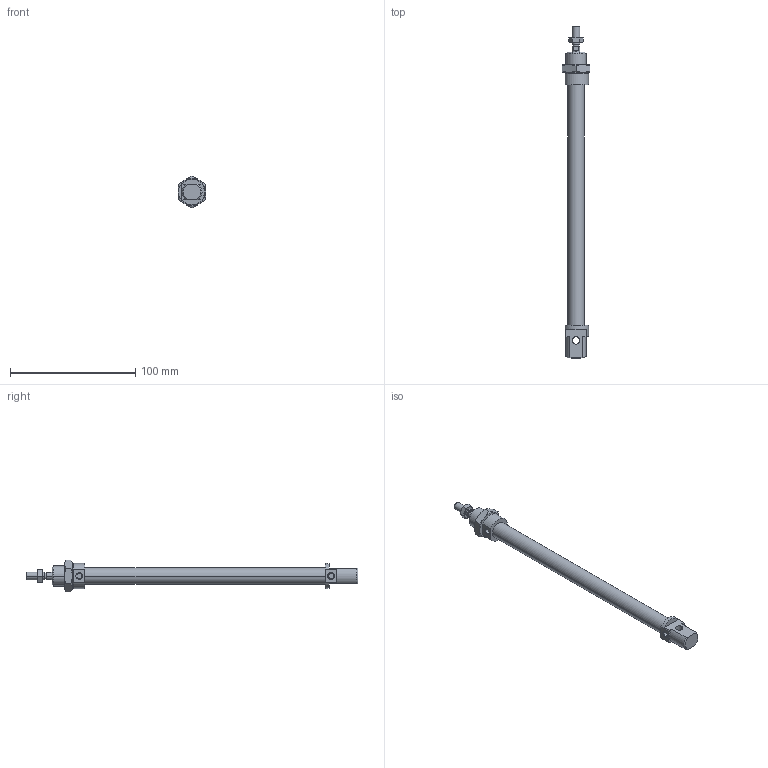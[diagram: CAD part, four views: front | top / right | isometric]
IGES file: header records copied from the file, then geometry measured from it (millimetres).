
Global section: file name: No Iges File Name specified; native system: Autodesk Inventor 2010; preprocessor: AutoDesk Inventor Iges Exporter R2010; author: rivolro1; date: 20090604.093154; units: millimetre
Bounding box: 22 x 265 x 25.4 mm (x, y, z)
Volume: 39327 mm3; surface area: 20872.2 mm2
Topology: 4 solids, 4 shells, 107 faces, 236 edges, 144 vertices
Faces by surface type: plane 39, cone 28, bspline 20, cylinder 14, revolution 6
